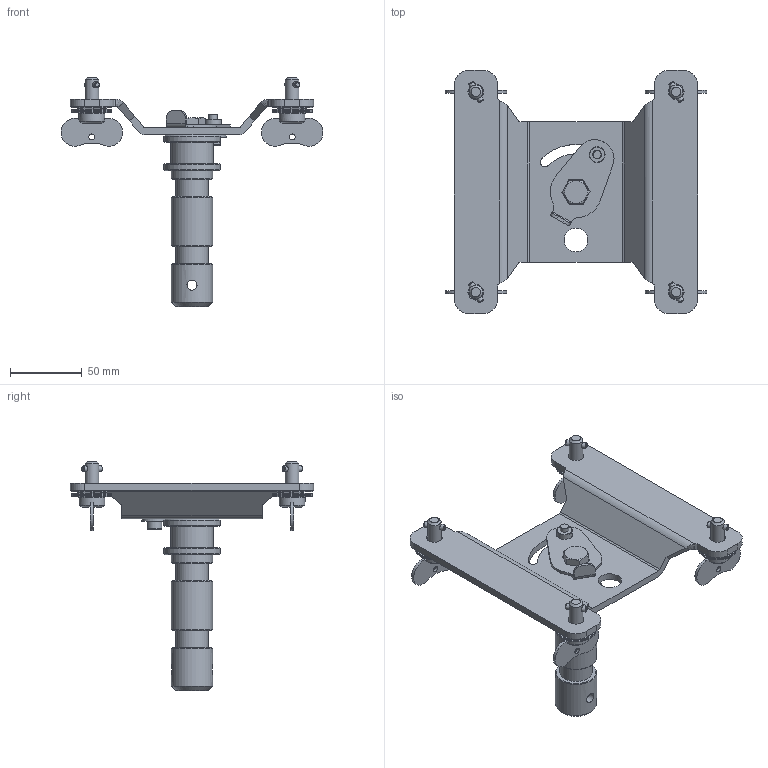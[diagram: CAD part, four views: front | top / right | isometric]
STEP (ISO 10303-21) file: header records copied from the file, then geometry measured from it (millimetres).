
FILE_DESCRIPTION(/* description */ ('Unknown'),/* implementation_level */ '2;1');
FILE_NAME(/* name */ '99015404 Adaptor RoSpo-tripod s CAMLOC',/* time_stamp */ '2025-02-14T07:45:12+01:00',/* author */ ('Unknown'),/* organization */ ('Unknown'),/* preprocessor_version */ 'ST-DEVELOPER v19.4',/* originating_system */ 'Solid Edge',/* authorisation */ 'Unknown');
FILE_SCHEMA (('AUTOMOTIVE_DESIGN {1 0 10303 214 3 1 1}'));
Length unit declared in the file: millimetre
Products named in the file (28): 99015404 Adaptor RoSpo-tripod s CAMLOC; 17041593 Jištìní s maticí; 11016202 jištìní šroubu M10; 18040009 Matice zálisná M6; 18060050 Šroub CAMLOC 9 s køidélkem; 11010728-01 Køidelko CAMLOC 9; 18060048 Šroub CAMLOC 9; 18510022 Šroub imbusový M6x16; 18550016 Podložka M6 velkoplošná; 18510127 Šroub šestihranný M10x30; 12051264 Spigot D28 Robe; 11016159 adaptor tripod-Robo; 17030152 Kolík 4x14 DIN1475-oa25; 17030152 Kolík 4x14 DIN1475-oa24; 17030152 Kolík 4x14 DIN1475-oa23; 17030152 Kolík 4x14 DIN1475; 17030135 Talíøová pružina 28-oa22; 17030135 Talíøová pružina 28-oa21; 17030135 Talíøová pružina 28-oa20; 17030135 Talíøová pružina 28-oa19; 17030135 Talíøová pružina 28-oa18; 17030135 Talíøová pružina 28-oa17; 17030135 Talíøová pružina 28-oa16; 17030135 Talíøová pružina 28-oa15; 17030135 Talíøová pružina 28-oa14; 17030135 Talíøová pružina 28-oa13; 17030135 Talíøová pružina 28-oa12; 17030135 Talíøová pružina 28
Assembly tree (30 placements, depth 3):
  99015404 Adaptor RoSpo-tripod s CAMLOC
    17041593 Jištìní s maticí
      11016202 jištìní šroubu M10
      18040009 Matice zálisná M6
    18060050 Šroub CAMLOC 9 s køidélkem  x4
      11010728-01 Køidelko CAMLOC 9
      18060048 Šroub CAMLOC 9
    18510022 Šroub imbusový M6x16
    18550016 Podložka M6 velkoplošná
    18510127 Šroub šestihranný M10x30
    12051264 Spigot D28 Robe
    11016159 adaptor tripod-Robo
    17030152 Kolík 4x14 DIN1475-oa25
    17030152 Kolík 4x14 DIN1475-oa24
    17030152 Kolík 4x14 DIN1475-oa23
    17030152 Kolík 4x14 DIN1475
    17030135 Talíøová pružina 28-oa22
    17030135 Talíøová pružina 28-oa21
    17030135 Talíøová pružina 28-oa20
    17030135 Talíøová pružina 28-oa19
    17030135 Talíøová pružina 28-oa18
    17030135 Talíøová pružina 28-oa17
    17030135 Talíøová pružina 28-oa16
    17030135 Talíøová pružina 28-oa15
    17030135 Talíøová pružina 28-oa14
    17030135 Talíøová pružina 28-oa13
    17030135 Talíøová pružina 28-oa12
    17030135 Talíøová pružina 28
Bounding box: 183 x 170 x 160.2 mm (x, y, z)
Volume: 218779.4 mm3; surface area: 101631.9 mm2
Topology: 31 solids, 31 shells, 396 faces, 911 edges, 592 vertices
Faces by surface type: plane 166, cylinder 140, cone 71, torus 15, bspline 4
Full cylindrical faces by diameter (mm): 4 x8, 4.2 x4, 5 x1, 6 x1, 6.4 x1, 7 x1, 8.376 x2, 8.7 x1, 8.8 x1, 9.5 x4, 10 x3, 10.2 x12, 11 x5, 15 x1, 16.5 x1, 18 x5, 22.8 x2, 28 x12, 28.8 x3, 30 x1, 39.5 x2
Entity records: 9052 total; most frequent: CARTESIAN_POINT 1503, DIRECTION 1399, ORIENTED_EDGE 1050, AXIS2_PLACEMENT_3D 591, EDGE_CURVE 525, FACE_BOUND 477, EDGE_LOOP 475, VERTEX_POINT 400
